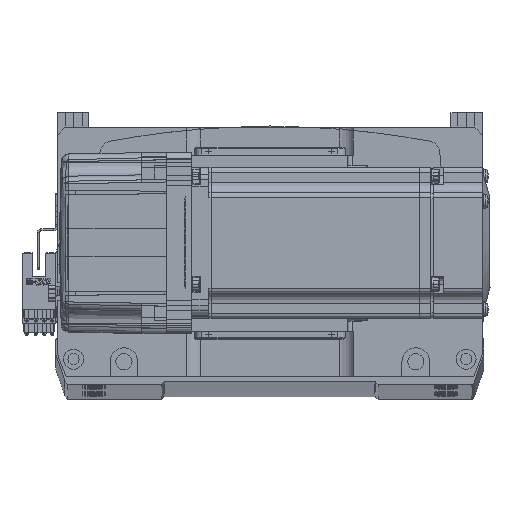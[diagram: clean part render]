
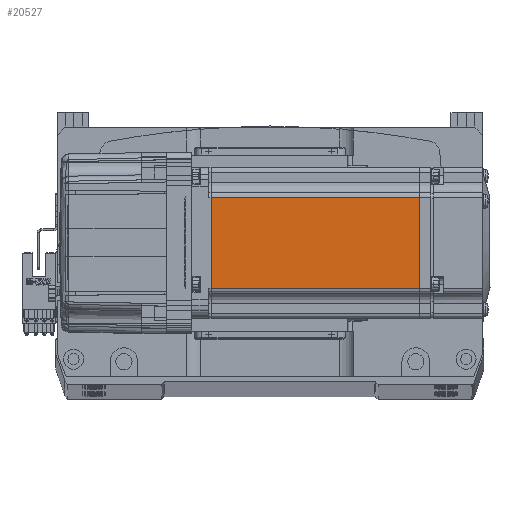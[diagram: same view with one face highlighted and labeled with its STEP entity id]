
A CAD part, top view. The second image highlights one B-rep face of the part: STEP entity #20527.
In plain terms, the highlighted planar face has unit normal (0, 0, 1) as drawn and (0, -1, 0) by its records, which use the part's own axes.
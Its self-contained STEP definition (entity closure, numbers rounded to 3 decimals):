
#310 = EDGE_CURVE ( 'NONE', #49717, #17292, #367, .T. ) ;
#367 = LINE ( 'NONE', #35320, #55470 ) ;
#447 = VECTOR ( 'NONE', #24801, 1000. ) ;
#15106 = ORIENTED_EDGE ( 'NONE', *, *, #38412, .T. ) ;
#16659 = PLANE ( 'NONE',  #37554 ) ;
#17292 = VERTEX_POINT ( 'NONE', #48445 ) ;
#17613 = CARTESIAN_POINT ( 'NONE',  ( -6.5, -30., -18. ) ) ;
#18738 = CARTESIAN_POINT ( 'NONE',  ( -7.75, -30., -25. ) ) ;
#19428 = ORIENTED_EDGE ( 'NONE', *, *, #64019, .T. ) ;
#19531 = DIRECTION ( 'NONE',  ( 0., 0., -1. ) ) ;
#20527 = ADVANCED_FACE ( 'NONE', ( #44634 ), #16659, .T. ) ;
#23298 = CARTESIAN_POINT ( 'NONE',  ( -90.45, -30., 18. ) ) ;
#24616 = DIRECTION ( 'NONE',  ( 0., 0., -1. ) ) ;
#24801 = DIRECTION ( 'NONE',  ( 0., 0., 1. ) ) ;
#35320 = CARTESIAN_POINT ( 'NONE',  ( -90.45, -30., -25. ) ) ;
#36574 = VECTOR ( 'NONE', #57181, 1000. ) ;
#37554 = AXIS2_PLACEMENT_3D ( 'NONE', #61303, #40009, #19531 ) ;
#38412 = EDGE_CURVE ( 'NONE', #68136, #49717, #40904, .T. ) ;
#38869 = EDGE_LOOP ( 'NONE', ( #59498, #15106, #54966, #19428 ) ) ;
#40009 = DIRECTION ( 'NONE',  ( 0., -1., 0. ) ) ;
#40904 = LINE ( 'NONE', #51314, #36574 ) ;
#42042 = LINE ( 'NONE', #17613, #58637 ) ;
#44634 = FACE_OUTER_BOUND ( 'NONE', #38869, .T. ) ;
#46752 = LINE ( 'NONE', #18738, #447 ) ;
#48445 = CARTESIAN_POINT ( 'NONE',  ( -90.45, -30., -18. ) ) ;
#49414 = CARTESIAN_POINT ( 'NONE',  ( -7.75, -30., 18. ) ) ;
#49717 = VERTEX_POINT ( 'NONE', #23298 ) ;
#51314 = CARTESIAN_POINT ( 'NONE',  ( -6.5, -30., 18. ) ) ;
#54966 = ORIENTED_EDGE ( 'NONE', *, *, #310, .T. ) ;
#55470 = VECTOR ( 'NONE', #24616, 1000. ) ;
#56435 = DIRECTION ( 'NONE',  ( 1., 0., 0. ) ) ;
#57181 = DIRECTION ( 'NONE',  ( -1., 0., 0. ) ) ;
#58637 = VECTOR ( 'NONE', #56435, 1000. ) ;
#59498 = ORIENTED_EDGE ( 'NONE', *, *, #69821, .T. ) ;
#61303 = CARTESIAN_POINT ( 'NONE',  ( -6.5, -30., -25. ) ) ;
#64019 = EDGE_CURVE ( 'NONE', #17292, #72302, #42042, .T. ) ;
#68136 = VERTEX_POINT ( 'NONE', #49414 ) ;
#68406 = CARTESIAN_POINT ( 'NONE',  ( -7.75, -30., -18. ) ) ;
#69821 = EDGE_CURVE ( 'NONE', #72302, #68136, #46752, .T. ) ;
#72302 = VERTEX_POINT ( 'NONE', #68406 ) ;
